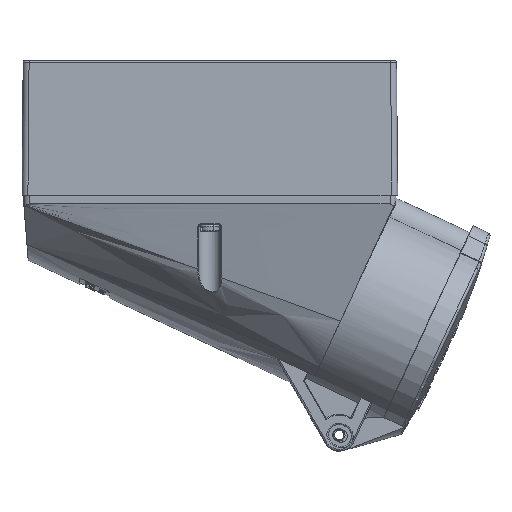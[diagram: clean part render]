
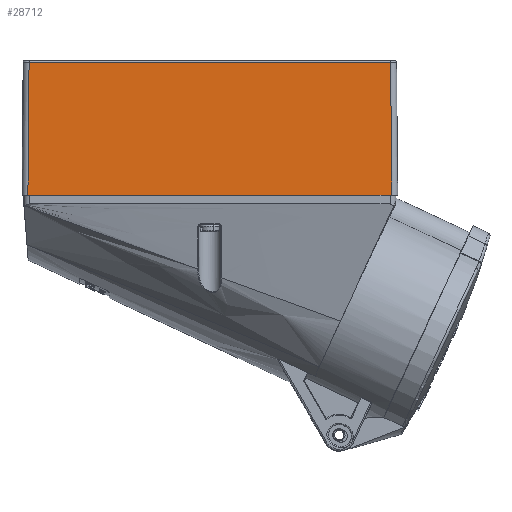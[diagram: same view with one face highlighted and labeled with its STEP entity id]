
A CAD part, left-side view. The second image highlights one B-rep face of the part: STEP entity #28712.
In plain terms, the highlighted planar face has unit normal (-1, 0, 0.009).
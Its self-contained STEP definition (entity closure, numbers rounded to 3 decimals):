
#358=CARTESIAN_POINT('',(-41.107,61.207,46.504));
#369=DIRECTION('',(0.,-1.,0.));
#370=VECTOR('',#369,122.415);
#371=CARTESIAN_POINT('',(-41.107,61.207,46.504));
#372=LINE('1378',#371,#370);
#798=DIRECTION('',(0.,-1.,0.));
#799=VECTOR('',#798,122.);
#800=CARTESIAN_POINT('',(-41.5,61.,1.5));
#801=LINE('3470',#800,#799);
#802=DIRECTION('',(0.,-1.,0.));
#803=VECTOR('',#802,0.6);
#804=CARTESIAN_POINT('',(-41.5,61.6,1.5));
#805=LINE('3477',#804,#803);
#806=DIRECTION('',(0.,-1.,0.));
#807=VECTOR('',#806,0.6);
#808=CARTESIAN_POINT('',(-41.5,-61.,1.5));
#809=LINE('3478',#808,#807);
#810=DIRECTION('',(-0.009,0.009,-1.));
#811=VECTOR('',#810,45.008);
#812=CARTESIAN_POINT('',(-41.107,61.207,46.504));
#813=LINE('1389',#812,#811);
#814=CARTESIAN_POINT('',(-41.5,61.6,1.5));
#840=CARTESIAN_POINT('',(-41.5,-61.6,1.5));
#842=DIRECTION('',(-0.009,-0.009,-1.));
#843=VECTOR('',#842,45.008);
#844=CARTESIAN_POINT('',(-41.107,-61.207,46.504));
#845=LINE('1396',#844,#843);
#24944=VERTEX_POINT('',#814);
#24951=VERTEX_POINT('',#840);
#24991=VERTEX_POINT('',#358);
#24994=CARTESIAN_POINT('',(-41.107,-61.207,
46.504));
#24995=VERTEX_POINT('',#24994);
#26614=CARTESIAN_POINT('',(-41.5,61.,1.5));
#26615=CARTESIAN_POINT('',(-41.5,-61.,1.5));
#26616=VERTEX_POINT('',#26614);
#26617=VERTEX_POINT('',#26615);
#28696=CARTESIAN_POINT('',(-41.5,64.8,1.5));
#28697=DIRECTION('',(-1.,0.,0.009));
#28698=DIRECTION('',(0.,1.,0.));
#28699=AXIS2_PLACEMENT_3D('',#28696,#28697,#28698);
#28700=PLANE('69',#28699);
#28701=ORIENTED_EDGE('3470',*,*,#28674,.F.);
#28702=ORIENTED_EDGE('3477',*,*,#28598,.F.);
#28704=ORIENTED_EDGE('1389',*,*,#28703,.F.);
#28705=ORIENTED_EDGE('1378',*,*,#27884,.T.);
#28707=ORIENTED_EDGE('1396',*,*,#28706,.T.);
#28709=ORIENTED_EDGE('3478',*,*,#28708,.F.);
#28710=EDGE_LOOP('69',(#28701,#28702,#28704,#28705,#28707,#28709));
#28711=FACE_OUTER_BOUND('69',#28710,.F.);
#27884=EDGE_CURVE('1378',#24991,#24995,#372,.T.);
#28598=EDGE_CURVE('3477',#24944,#26616,#805,.T.);
#28674=EDGE_CURVE('3470',#26616,#26617,#801,.T.);
#28703=EDGE_CURVE('1389',#24991,#24944,#813,.T.);
#28706=EDGE_CURVE('1396',#24995,#24951,#845,.T.);
#28708=EDGE_CURVE('3478',#26617,#24951,#809,.T.);
#28712=ADVANCED_FACE('69',(#28711),#28700,.T.);
